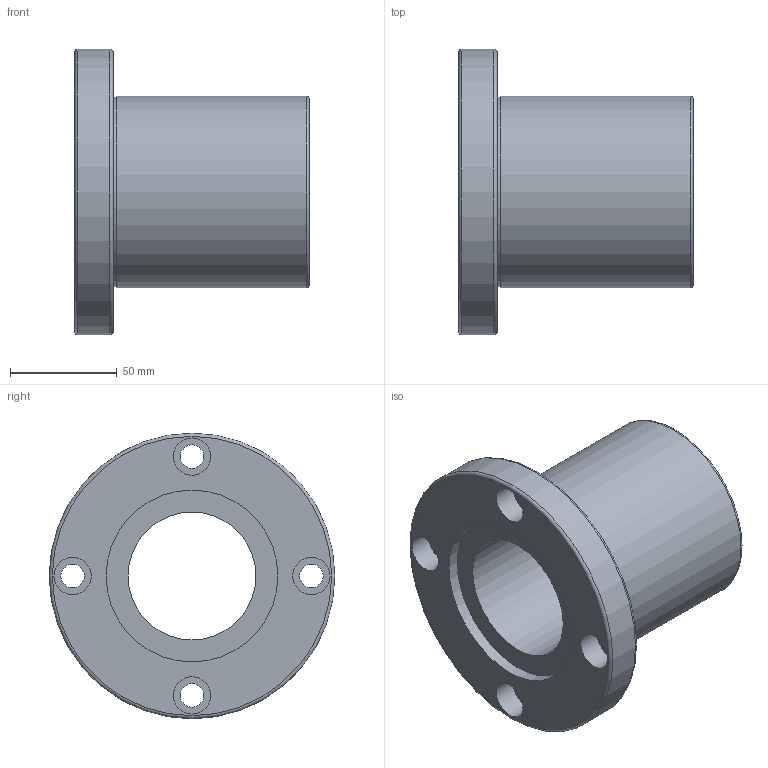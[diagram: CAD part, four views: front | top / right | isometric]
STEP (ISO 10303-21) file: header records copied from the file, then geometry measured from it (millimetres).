
FILE_DESCRIPTION( ( 'Unknown' ), '1' );
FILE_NAME( 'D:/累诀/己绕皋墨飘肺葱胶/11-04-06_档搁累己/01_府聪绢何教/LMF/LMF 60.stp', 'Unknown', ( 'Unknown' ), ( 'Unknown' ), 'PSStep 11.0', 'Unknown', ' ' );
FILE_SCHEMA( ( 'AUTOMOTIVE_DESIGN { 1 0 10303 214 1 1 1 1 }' ) );
Length unit declared in the file: millimetre
Products named in the file (1): 1
Bounding box: 110 x 134 x 134 mm (x, y, z)
Volume: 489206.6 mm3; surface area: 79746.1 mm2
Topology: 1 solids, 1 shells, 27 faces, 52 edges, 35 vertices
Faces by surface type: cylinder 14, plane 10, torus 3
Full cylindrical faces by diameter (mm): 11 x4, 17.5 x4, 60 x1, 80.6 x2, 89 x1, 90 x1, 134 x1
Entity records: 836 total; most frequent: DIRECTION 118, CARTESIAN_POINT 90, EDGE_LOOP 62, ORIENTED_EDGE 62, AXIS2_PLACEMENT_3D 59, FACE_OUTER_BOUND 44, EDGE_CURVE 31, VERTEX_POINT 31
